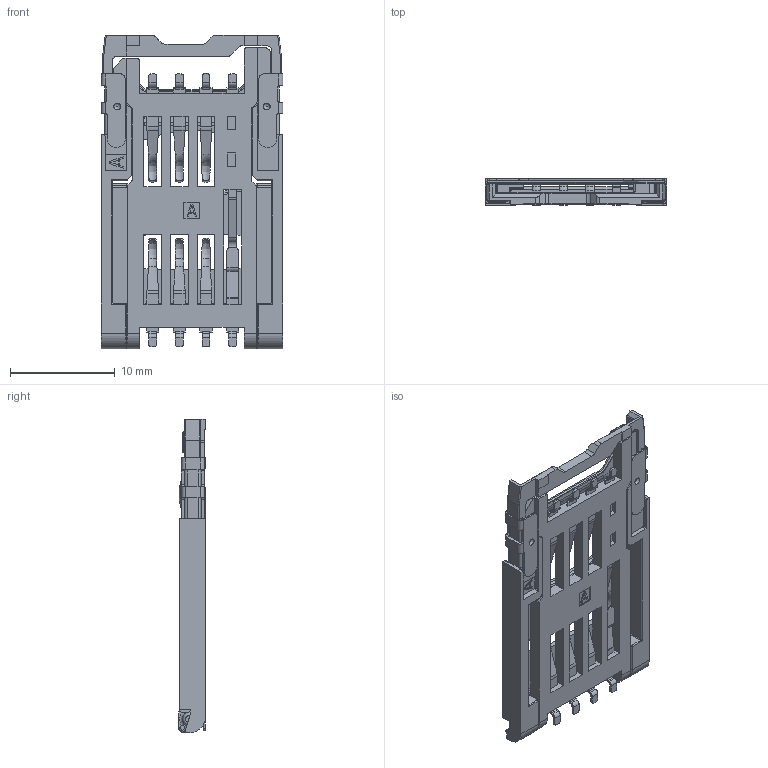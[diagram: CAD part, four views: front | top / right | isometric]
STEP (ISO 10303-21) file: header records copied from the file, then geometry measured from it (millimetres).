
FILE_DESCRIPTION(('STEP AP242'), '1');
FILE_NAME('c706_3d', '2019-05-09T13:47:30', (''), (''), 'ASCON STEP Converter 1.6', 'ASCON Math Kernel', '');
FILE_SCHEMA(('AP242_MANAGED_MODEL_BASED_3D_ENGINEERING_MIM_LF { 1 0 10303 442 1 1 4 }'));
Length unit declared in the file: millimetre
Products named in the file (1): SN-M607
Bounding box: 17.35 x 2.55 x 29.9 mm (x, y, z)
Volume: 541.7 mm3; surface area: 1974.9 mm2
Topology: 1 solids, 1 shells, 1175 faces, 3200 edges, 2065 vertices
Faces by surface type: plane 751, cylinder 285, bspline 67, torus 43, cone 13, extrusion 12, sphere 4
Full cylindrical faces by diameter (mm): 1.35 x2
Entity records: 51348 total; most frequent: CARTESIAN_POINT 12524, ORIENTED_EDGE 6378, DIRECTION 5719, EDGE_CURVE 3189, VECTOR 2319, LINE 2307, VERTEX_POINT 2064, AXIS2_PLACEMENT_3D 1700
